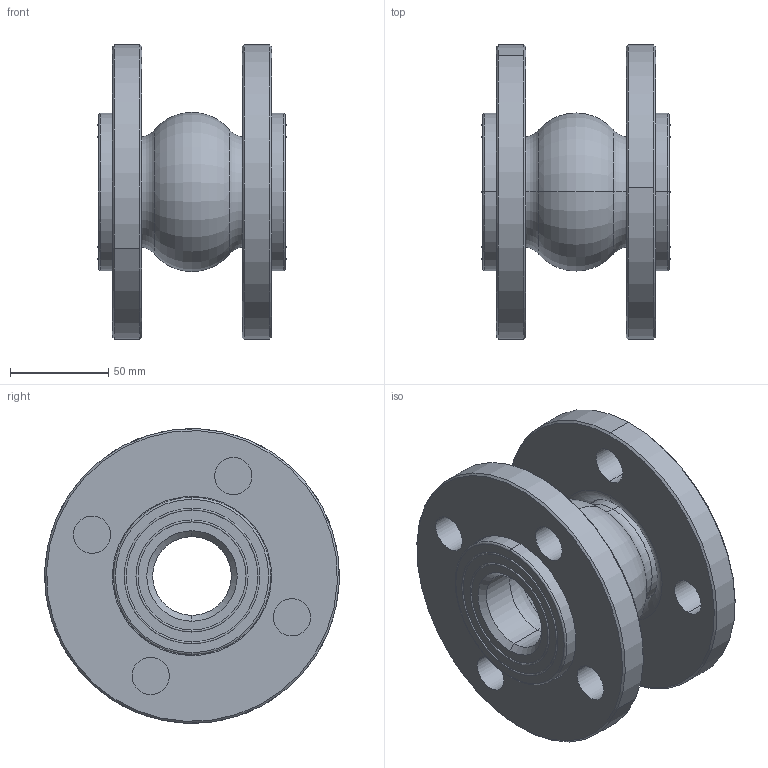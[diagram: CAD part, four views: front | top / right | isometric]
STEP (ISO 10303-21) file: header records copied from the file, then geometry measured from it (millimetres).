
FILE_DESCRIPTION (( 'STEP AP214' ), '1' );
FILE_NAME ('DN40 PN16.STEP', '2026-07-16T06:16:19', ( 'Windows 蚚誧' ), ( '' ), 'SwSTEP 2.0', 'SolidWorks 2018', '' );
FILE_SCHEMA (( 'AUTOMOTIVE_DESIGN' ));
Length unit declared in the file: millimetre
Products named in the file (3): DN40 PN16; DN40; DN40双球单法兰-PN16
Assembly tree (3 placements, depth 2):
  DN40 PN16
    DN40
    DN40双球单法兰-PN16  x2
Bounding box: 96 x 149.95 x 149.95 mm (x, y, z)
Volume: 582470.9 mm3; surface area: 135943.4 mm2
Topology: 3 solids, 3 shells, 124 faces, 264 edges, 156 vertices
Faces by surface type: cylinder 44, torus 44, cone 20, plane 16
Entity records: 2676 total; most frequent: DIRECTION 550, CARTESIAN_POINT 410, ORIENTED_EDGE 392, AXIS2_PLACEMENT_3D 254, EDGE_CURVE 196, CIRCLE 154, VERTEX_POINT 114, EDGE_LOOP 114
